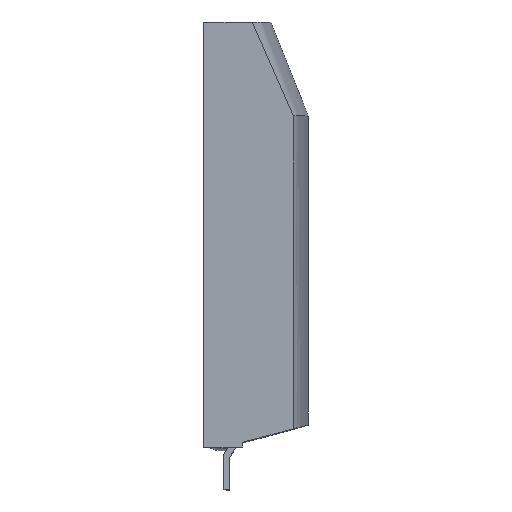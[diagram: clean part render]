
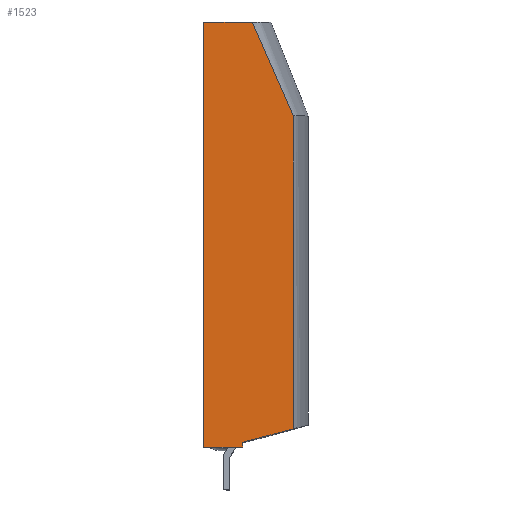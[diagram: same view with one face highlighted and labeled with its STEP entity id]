
A CAD part, top view. The second image highlights one B-rep face of the part: STEP entity #1523.
In plain terms, the highlighted planar face has unit normal (0, 0, 1).
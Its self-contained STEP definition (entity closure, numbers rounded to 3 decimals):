
#244 = CARTESIAN_POINT ( 'NONE',  ( 0., -30.99, 10. ) ) ;
#245 = CARTESIAN_POINT ( 'NONE',  ( 14.983, 100.005, 10. ) ) ;
#330 = ORIENTED_EDGE ( 'NONE', *, *, #3241, .F. ) ;
#331 = ORIENTED_EDGE ( 'NONE', *, *, #3242, .F. ) ;
#332 = ORIENTED_EDGE ( 'NONE', *, *, #1509, .T. ) ;
#333 = ORIENTED_EDGE ( 'NONE', *, *, #3243, .F. ) ;
#334 = ORIENTED_EDGE ( 'NONE', *, *, #3244, .F. ) ;
#335 = ORIENTED_EDGE ( 'NONE', *, *, #3206, .F. ) ;
#336 = ORIENTED_EDGE ( 'NONE', *, *, #3245, .T. ) ;
#337 = ORIENTED_EDGE ( 'NONE', *, *, #3246, .F. ) ;
#338 = ORIENTED_EDGE ( 'NONE', *, *, #3247, .F. ) ;
#484 = LINE ( 'NONE', #486, #3463 ) ;
#486 = CARTESIAN_POINT ( 'NONE',  ( 0., -30.995, 10. ) ) ;
#487 = DIRECTION ( 'NONE',  ( 1., 0., 0. ) ) ;
#536 = CARTESIAN_POINT ( 'NONE',  ( 0., -30.995, 10. ) ) ;
#544 = FACE_OUTER_BOUND ( 'NONE', #850, .T. ) ;
#545 = PLANE ( 'NONE',  #3566 ) ;
#547 = DIRECTION ( 'NONE',  ( 0., 0., -1. ) ) ;
#548 = DIRECTION ( 'NONE',  ( 0., -1., 0. ) ) ;
#651 = VERTEX_POINT ( 'NONE', #244 ) ;
#652 = VERTEX_POINT ( 'NONE', #245 ) ;
#655 = VERTEX_POINT ( 'NONE', #895 ) ;
#665 = VERTEX_POINT ( 'NONE', #906 ) ;
#675 = VERTEX_POINT ( 'NONE', #916 ) ;
#704 = VERTEX_POINT ( 'NONE', #945 ) ;
#746 = VERTEX_POINT ( 'NONE', #1603 ) ;
#768 = VERTEX_POINT ( 'NONE', #1625 ) ;
#773 = VERTEX_POINT ( 'NONE', #1630 ) ;
#850 = EDGE_LOOP ( 'NONE', ( #330, #331, #332, #333, #334, #335, #336, #337, #338 ) ) ;
#895 = CARTESIAN_POINT ( 'NONE',  ( 0., 100.005, 10. ) ) ;
#906 = CARTESIAN_POINT ( 'NONE',  ( 10., -30.99, 10. ) ) ;
#916 = CARTESIAN_POINT ( 'NONE',  ( 12., -29.508, 10. ) ) ;
#945 = CARTESIAN_POINT ( 'NONE',  ( 10., -30.995, 10. ) ) ;
#1509 = EDGE_CURVE ( 'NONE', #704, #773, #484, .T. ) ;
#1523 = ADVANCED_FACE ( 'NONE', ( #544 ), #545, .F. ) ;
#1603 = CARTESIAN_POINT ( 'NONE',  ( 27.578, -25.334, 10. ) ) ;
#1625 = CARTESIAN_POINT ( 'NONE',  ( 27.578, 71.085, 10. ) ) ;
#1630 = CARTESIAN_POINT ( 'NONE',  ( 12., -30.995, 10. ) ) ;
#2102 = LINE ( 'NONE', #2103, #3373 ) ;
#2103 = CARTESIAN_POINT ( 'NONE',  ( 27.578, 146.189, 10. ) ) ;
#2104 = DIRECTION ( 'NONE',  ( 0., -1., 0. ) ) ;
#2213 = CARTESIAN_POINT ( 'NONE',  ( 0., -30.99, 10. ) ) ;
#2222 = LINE ( 'NONE', #2213, #3343 ) ;
#2225 = LINE ( 'NONE', #2234, #3341 ) ;
#2226 = LINE ( 'NONE', #2232, #3344 ) ;
#2230 = LINE ( 'NONE', #2237, #3340 ) ;
#2231 = DIRECTION ( 'NONE',  ( -1., 0., 0. ) ) ;
#2232 = CARTESIAN_POINT ( 'NONE',  ( 10., -33.018, 10. ) ) ;
#2233 = DIRECTION ( 'NONE',  ( 0., 1., 0. ) ) ;
#2234 = CARTESIAN_POINT ( 'NONE',  ( 12., -33.017, 10. ) ) ;
#2235 = CARTESIAN_POINT ( 'NONE',  ( 23.379, 80.725, 10. ) ) ;
#2236 = DIRECTION ( 'NONE',  ( 0., -1., 0. ) ) ;
#2237 = CARTESIAN_POINT ( 'NONE',  ( 12., -29.508, 10. ) ) ;
#2238 = CARTESIAN_POINT ( 'NONE',  ( 27.578, 71.085, 10. ) ) ;
#2239 = DIRECTION ( 'NONE',  ( -0.966, -0.259, 0. ) ) ;
#2242 = CARTESIAN_POINT ( 'NONE',  ( 19.181, 90.365, 10. ) ) ;
#2243 = CARTESIAN_POINT ( 'NONE',  ( 14.983, 100.005, 10. ) ) ;
#2244 = LINE ( 'NONE', #2245, #3337 ) ;
#2245 = CARTESIAN_POINT ( 'NONE',  ( 0., 100.005, 10. ) ) ;
#2246 = DIRECTION ( 'NONE',  ( 1., 0., 0. ) ) ;
#2247 = LINE ( 'NONE', #2248, #3339 ) ;
#2248 = CARTESIAN_POINT ( 'NONE',  ( 0., -30.995, 10. ) ) ;
#2249 = DIRECTION ( 'NONE',  ( 0., 1., 0. ) ) ;
#3206 = EDGE_CURVE ( 'NONE', #768, #746, #2102, .T. ) ;
#3241 = EDGE_CURVE ( 'NONE', #665, #651, #2222, .T. ) ;
#3242 = EDGE_CURVE ( 'NONE', #704, #665, #2226, .T. ) ;
#3243 = EDGE_CURVE ( 'NONE', #675, #773, #2225, .T. ) ;
#3244 = EDGE_CURVE ( 'NONE', #746, #675, #2230, .T. ) ;
#3245 = EDGE_CURVE ( 'NONE', #768, #652, #3473, .T. ) ;
#3246 = EDGE_CURVE ( 'NONE', #655, #652, #2244, .T. ) ;
#3247 = EDGE_CURVE ( 'NONE', #651, #655, #2247, .T. ) ;
#3337 = VECTOR ( 'NONE', #2246, 1000. ) ;
#3339 = VECTOR ( 'NONE', #2249, 1000. ) ;
#3340 = VECTOR ( 'NONE', #2239, 1000. ) ;
#3341 = VECTOR ( 'NONE', #2236, 1000. ) ;
#3343 = VECTOR ( 'NONE', #2231, 1000. ) ;
#3344 = VECTOR ( 'NONE', #2233, 1000. ) ;
#3373 = VECTOR ( 'NONE', #2104, 1000. ) ;
#3463 = VECTOR ( 'NONE', #487, 1000. ) ;
#3473 = B_SPLINE_CURVE_WITH_KNOTS ( 'NONE', 3,
 ( #2238, #2235, #2242, #2243 ),
 .UNSPECIFIED., .F., .F.,
 ( 4, 4 ),
 ( 0., 1. ),
 .UNSPECIFIED. ) ;
#3566 = AXIS2_PLACEMENT_3D ( 'NONE', #536, #547, #548 ) ;
